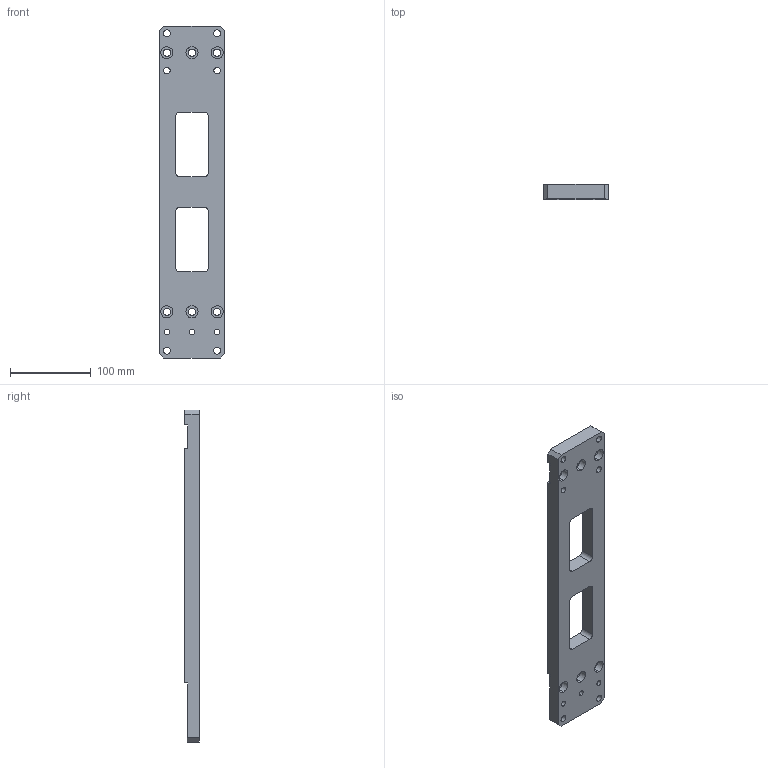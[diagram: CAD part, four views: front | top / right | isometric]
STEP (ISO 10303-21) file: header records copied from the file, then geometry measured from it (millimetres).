
FILE_DESCRIPTION (( 'STEP AP203' ), '1' );
FILE_NAME ('CY-DD-B005.step', '2023-12-27T04:44:02', ( '1' ), ( '' ), 'SwSTEP 2.0', 'SolidWorks 2022', '' );
FILE_SCHEMA (( 'CONFIG_CONTROL_DESIGN' ));
Length unit declared in the file: millimetre
Products named in the file (1): CY-DD-B005
Bounding box: 80 x 18 x 410 mm (x, y, z)
Volume: 430925.8 mm3; surface area: 84448.3 mm2
Topology: 1 solids, 1 shells, 86 faces, 234 edges, 156 vertices
Faces by surface type: cylinder 50, plane 36
Entity records: 2903 total; most frequent: DIRECTION 508, CARTESIAN_POINT 477, ORIENTED_EDGE 468, EDGE_CURVE 234, AXIS2_PLACEMENT_3D 187, VERTEX_POINT 156, LINE 134, VECTOR 134
